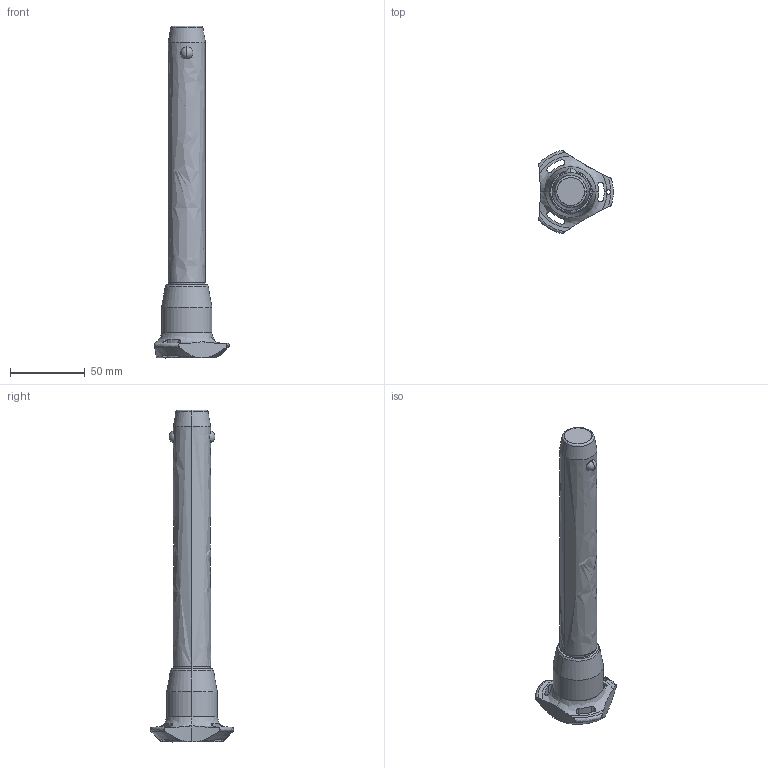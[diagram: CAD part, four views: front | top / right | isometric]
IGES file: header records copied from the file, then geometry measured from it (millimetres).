
Start section: SolidWorks IGES file using analytic representation for surfaces
Global section: file name: C:\Users\ianosborn\Desktop\QR1724_v2\QR1724_v2_20251112_IGES\QR1724.M25-150-S.igs; native system: SolidWorks 2019; preprocessor: SolidWorks 2019; author: IanOsborn; date: 251112.131420; units: millimetre
Bounding box: 50.03 x 56.02 x 222.7 mm (x, y, z)
Surface area: 23230.2 mm2 (no closed solid volume)
Topology: 0 solids, 0 shells, 65 faces, 1310 edges, 1306 vertices
Faces by surface type: revolution 50, bspline 15
